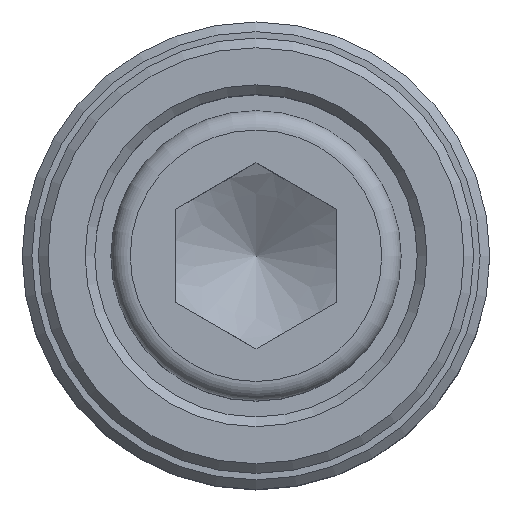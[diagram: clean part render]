
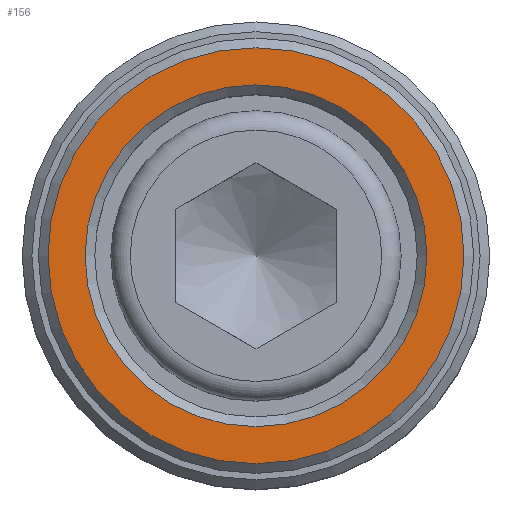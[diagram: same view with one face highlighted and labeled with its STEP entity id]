
A CAD part, top view. The second image highlights one B-rep face of the part: STEP entity #156.
In plain terms, the highlighted planar face has unit normal (0, 0, 1).
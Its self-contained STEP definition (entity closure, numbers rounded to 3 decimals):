
#156=ADVANCED_FACE('',(#705,#707),#709,.F.);
#705=FACE_BOUND('',#706,.T.);
#706=EDGE_LOOP('',(#1159));
#707=FACE_BOUND('',#708,.T.);
#708=EDGE_LOOP('',(#1160));
#709=PLANE('',#710);
#710=AXIS2_PLACEMENT_3D('',#711,#712,#713);
#711=CARTESIAN_POINT('',(0.,0.,24.));
#712=DIRECTION('',(0.,0.,-1.));
#713=DIRECTION('',(1.,0.,0.));
#1159=ORIENTED_EDGE('',*,*,#1293,.T.);
#1160=ORIENTED_EDGE('',*,*,#1284,.F.);
#1284=EDGE_CURVE('',#1366,#1366,#1367,.F.);
#1293=EDGE_CURVE('',#1384,#1384,#1385,.T.);
#1366=VERTEX_POINT('',#1534);
#1367=CIRCLE('',#1535,10.6);
#1384=VERTEX_POINT('',#1573);
#1385=CIRCLE('',#1574,12.9);
#1534=CARTESIAN_POINT('',(0.,10.6,24.));
#1535=AXIS2_PLACEMENT_3D('',#1536,#1537,#1538);
#1536=CARTESIAN_POINT('',(0.,0.,24.));
#1537=DIRECTION('',(0.,0.,-1.));
#1538=DIRECTION('',(0.,1.,0.));
#1573=CARTESIAN_POINT('',(12.9,0.,24.));
#1574=AXIS2_PLACEMENT_3D('',#1575,#1576,#1577);
#1575=CARTESIAN_POINT('',(0.,0.,24.));
#1576=DIRECTION('',(0.,0.,1.));
#1577=DIRECTION('',(1.,0.,0.));
